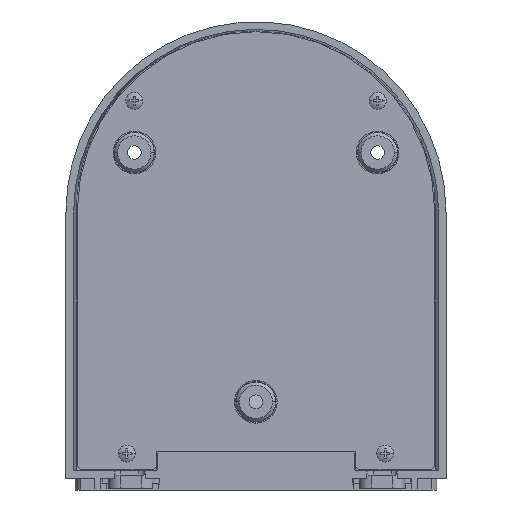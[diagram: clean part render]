
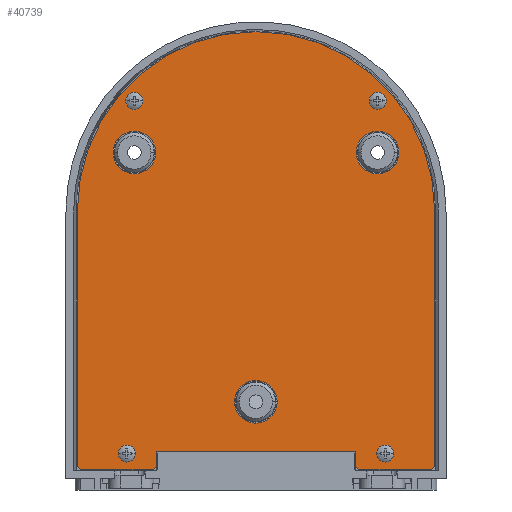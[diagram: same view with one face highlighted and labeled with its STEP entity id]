
A CAD part, front view. The second image highlights one B-rep face of the part: STEP entity #40739.
In plain terms, the highlighted planar face has unit normal (0, -1, 0).
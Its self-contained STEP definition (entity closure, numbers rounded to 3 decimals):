
#12165=CARTESIAN_POINT('',(-0.046,-127.6,-90.));
#12166=DIRECTION('',(0.,1.,0.));
#12167=DIRECTION('',(-1.,0.,0.));
#12168=AXIS2_PLACEMENT_3D('',#12165,#12166,#12167);
#12170=CARTESIAN_POINT('',(-0.046,-127.6,-90.));
#12171=DIRECTION('',(0.,1.,0.));
#12172=DIRECTION('',(1.,0.,0.));
#12173=AXIS2_PLACEMENT_3D('',#12170,#12171,#12172);
#12175=CARTESIAN_POINT('',(40.,-127.6,-8.));
#12176=DIRECTION('',(0.,1.,0.));
#12177=DIRECTION('',(-1.,0.,0.));
#12178=AXIS2_PLACEMENT_3D('',#12175,#12176,#12177);
#12180=CARTESIAN_POINT('',(40.,-127.6,-8.));
#12181=DIRECTION('',(0.,1.,0.));
#12182=DIRECTION('',(1.,0.,0.));
#12183=AXIS2_PLACEMENT_3D('',#12180,#12181,#12182);
#12185=CARTESIAN_POINT('',(-40.,-127.6,-8.));
#12186=DIRECTION('',(0.,1.,0.));
#12187=DIRECTION('',(-1.,0.,0.));
#12188=AXIS2_PLACEMENT_3D('',#12185,#12186,#12187);
#12190=CARTESIAN_POINT('',(-40.,-127.6,-8.));
#12191=DIRECTION('',(0.,1.,0.));
#12192=DIRECTION('',(1.,0.,0.));
#12193=AXIS2_PLACEMENT_3D('',#12190,#12191,#12192);
#12195=DIRECTION('',(0.707,0.,-0.707));
#12196=VECTOR('',#12195,1.414);
#12197=CARTESIAN_POINT('',(-58.75,-127.6,-111.3));
#12198=LINE('',#12197,#12196);
#12199=DIRECTION('',(0.,0.,1.));
#12200=VECTOR('',#12199,84.3);
#12201=CARTESIAN_POINT('',(-58.75,-127.6,-111.3));
#12202=LINE('',#12201,#12200);
#12203=CARTESIAN_POINT('',(0.,-127.6,-27.));
#12204=DIRECTION('',(0.,1.,0.));
#12205=DIRECTION('',(-1.,0.,0.));
#12206=AXIS2_PLACEMENT_3D('',#12203,#12204,#12205);
#12208=DIRECTION('',(0.,0.,-1.));
#12209=VECTOR('',#12208,84.3);
#12210=CARTESIAN_POINT('',(58.75,-127.6,-27.));
#12211=LINE('',#12210,#12209);
#12212=DIRECTION('',(0.707,0.,0.707));
#12213=VECTOR('',#12212,1.414);
#12214=CARTESIAN_POINT('',(57.75,-127.6,-112.3));
#12215=LINE('',#12214,#12213);
#12216=DIRECTION('',(-1.,0.,0.));
#12217=VECTOR('',#12216,23.95);
#12218=CARTESIAN_POINT('',(57.75,-127.6,-112.3));
#12219=LINE('',#12218,#12217);
#12220=DIRECTION('',(0.707,0.,-0.707));
#12221=VECTOR('',#12220,1.414);
#12222=CARTESIAN_POINT('',(32.8,-127.6,-111.3));
#12223=LINE('',#12222,#12221);
#12224=DIRECTION('',(0.,0.,-1.));
#12225=VECTOR('',#12224,5.1);
#12226=CARTESIAN_POINT('',(32.8,-127.6,-106.2));
#12227=LINE('',#12226,#12225);
#12228=DIRECTION('',(1.,0.,0.));
#12229=VECTOR('',#12228,65.6);
#12230=CARTESIAN_POINT('',(-32.8,-127.6,-106.2));
#12231=LINE('',#12230,#12229);
#12232=DIRECTION('',(0.,0.,1.));
#12233=VECTOR('',#12232,5.1);
#12234=CARTESIAN_POINT('',(-32.8,-127.6,-111.3));
#12235=LINE('',#12234,#12233);
#12236=DIRECTION('',(0.707,0.,0.707));
#12237=VECTOR('',#12236,1.414);
#12238=CARTESIAN_POINT('',(-33.8,-127.6,-112.3));
#12239=LINE('',#12238,#12237);
#12240=DIRECTION('',(1.,0.,0.));
#12241=VECTOR('',#12240,23.95);
#12242=CARTESIAN_POINT('',(-57.75,-127.6,-112.3));
#12243=LINE('',#12242,#12241);
#12244=CARTESIAN_POINT('',(42.5,-127.6,-107.));
#12245=DIRECTION('',(0.,1.,0.));
#12246=DIRECTION('',(1.,0.,0.));
#12247=AXIS2_PLACEMENT_3D('',#12244,#12245,#12246);
#12249=CARTESIAN_POINT('',(42.5,-127.6,-107.));
#12250=DIRECTION('',(0.,1.,0.));
#12251=DIRECTION('',(-1.,0.,0.));
#12252=AXIS2_PLACEMENT_3D('',#12249,#12250,#12251);
#12254=CARTESIAN_POINT('',(-42.5,-127.6,-107.));
#12255=DIRECTION('',(0.,1.,0.));
#12256=DIRECTION('',(1.,0.,0.));
#12257=AXIS2_PLACEMENT_3D('',#12254,#12255,#12256);
#12259=CARTESIAN_POINT('',(-42.5,-127.6,-107.));
#12260=DIRECTION('',(0.,1.,0.));
#12261=DIRECTION('',(-1.,0.,0.));
#12262=AXIS2_PLACEMENT_3D('',#12259,#12260,#12261);
#12264=CARTESIAN_POINT('',(40.,-127.6,9.));
#12265=DIRECTION('',(0.,1.,0.));
#12266=DIRECTION('',(1.,0.,0.));
#12267=AXIS2_PLACEMENT_3D('',#12264,#12265,#12266);
#12269=CARTESIAN_POINT('',(40.,-127.6,9.));
#12270=DIRECTION('',(0.,1.,0.));
#12271=DIRECTION('',(-1.,0.,0.));
#12272=AXIS2_PLACEMENT_3D('',#12269,#12270,#12271);
#12274=CARTESIAN_POINT('',(-40.,-127.6,9.));
#12275=DIRECTION('',(0.,1.,0.));
#12276=DIRECTION('',(1.,0.,0.));
#12277=AXIS2_PLACEMENT_3D('',#12274,#12275,#12276);
#12279=CARTESIAN_POINT('',(-40.,-127.6,9.));
#12280=DIRECTION('',(0.,1.,0.));
#12281=DIRECTION('',(-1.,0.,0.));
#12282=AXIS2_PLACEMENT_3D('',#12279,#12280,#12281);
#24055=CARTESIAN_POINT('',(-58.75,-127.6,-27.));
#24056=CARTESIAN_POINT('',(58.75,-127.6,-27.));
#24057=VERTEX_POINT('',#24055);
#24058=VERTEX_POINT('',#24056);
#24059=CARTESIAN_POINT('',(-32.8,-127.6,-106.2));
#24060=CARTESIAN_POINT('',(32.8,-127.6,-106.2));
#24061=VERTEX_POINT('',#24059);
#24062=VERTEX_POINT('',#24060);
#24063=CARTESIAN_POINT('',(-7.046,-127.6,-90.));
#24064=CARTESIAN_POINT('',(6.954,-127.6,-90.));
#24065=VERTEX_POINT('',#24063);
#24066=VERTEX_POINT('',#24064);
#24067=CARTESIAN_POINT('',(33.,-127.6,-8.));
#24068=CARTESIAN_POINT('',(47.,-127.6,-8.));
#24069=VERTEX_POINT('',#24067);
#24070=VERTEX_POINT('',#24068);
#24071=CARTESIAN_POINT('',(-47.,-127.6,-8.));
#24072=CARTESIAN_POINT('',(-33.,-127.6,-8.));
#24073=VERTEX_POINT('',#24071);
#24074=VERTEX_POINT('',#24072);
#24075=CARTESIAN_POINT('',(-58.75,-127.6,-111.3));
#24076=CARTESIAN_POINT('',(-57.75,-127.6,-112.3));
#24077=VERTEX_POINT('',#24075);
#24078=VERTEX_POINT('',#24076);
#24079=CARTESIAN_POINT('',(-33.8,-127.6,-112.3));
#24080=CARTESIAN_POINT('',(-32.8,-127.6,-111.3));
#24081=VERTEX_POINT('',#24079);
#24082=VERTEX_POINT('',#24080);
#24083=CARTESIAN_POINT('',(57.75,-127.6,-112.3));
#24084=CARTESIAN_POINT('',(58.75,-127.6,-111.3));
#24085=VERTEX_POINT('',#24083);
#24086=VERTEX_POINT('',#24084);
#24087=CARTESIAN_POINT('',(32.8,-127.6,-111.3));
#24088=CARTESIAN_POINT('',(33.8,-127.6,-112.3));
#24089=VERTEX_POINT('',#24087);
#24090=VERTEX_POINT('',#24088);
#24477=CARTESIAN_POINT('',(45.3,-127.6,-107.));
#24478=CARTESIAN_POINT('',(39.7,-127.6,-107.));
#24479=VERTEX_POINT('',#24477);
#24480=VERTEX_POINT('',#24478);
#24489=CARTESIAN_POINT('',(-39.7,-127.6,-107.));
#24490=CARTESIAN_POINT('',(-45.3,-127.6,-107.));
#24491=VERTEX_POINT('',#24489);
#24492=VERTEX_POINT('',#24490);
#24493=CARTESIAN_POINT('',(42.8,-127.6,9.));
#24494=CARTESIAN_POINT('',(37.2,-127.6,9.));
#24495=VERTEX_POINT('',#24493);
#24496=VERTEX_POINT('',#24494);
#24497=CARTESIAN_POINT('',(-37.2,-127.6,9.));
#24498=CARTESIAN_POINT('',(-42.8,-127.6,9.));
#24499=VERTEX_POINT('',#24497);
#24500=VERTEX_POINT('',#24498);
#40678=CARTESIAN_POINT('',(0.,-127.6,0.));
#40679=DIRECTION('',(0.,1.,0.));
#40680=DIRECTION('',(-1.,0.,0.));
#40681=AXIS2_PLACEMENT_3D('',#40678,#40679,#40680);
#40682=PLANE('',#40681);
#40683=ORIENTED_EDGE('',*,*,#40659,.F.);
#40684=ORIENTED_EDGE('',*,*,#40672,.T.);
#40685=ORIENTED_EDGE('',*,*,#40518,.T.);
#40686=ORIENTED_EDGE('',*,*,#40533,.T.);
#40687=ORIENTED_EDGE('',*,*,#40547,.F.);
#40688=ORIENTED_EDGE('',*,*,#40561,.T.);
#40689=ORIENTED_EDGE('',*,*,#40575,.F.);
#40690=ORIENTED_EDGE('',*,*,#40589,.F.);
#40691=ORIENTED_EDGE('',*,*,#40603,.F.);
#40692=ORIENTED_EDGE('',*,*,#40617,.F.);
#40693=ORIENTED_EDGE('',*,*,#40631,.F.);
#40694=ORIENTED_EDGE('',*,*,#40645,.F.);
#40695=EDGE_LOOP('',(#40683,#40684,#40685,#40686,#40687,#40688,#40689,#40690,
#40691,#40692,#40693,#40694));
#40696=FACE_OUTER_BOUND('',#40695,.F.);
#40698=ORIENTED_EDGE('',*,*,#40697,.F.);
#40700=ORIENTED_EDGE('',*,*,#40699,.F.);
#40701=EDGE_LOOP('',(#40698,#40700));
#40702=FACE_BOUND('',#40701,.F.);
#40704=ORIENTED_EDGE('',*,*,#40703,.F.);
#40706=ORIENTED_EDGE('',*,*,#40705,.F.);
#40707=EDGE_LOOP('',(#40704,#40706));
#40708=FACE_BOUND('',#40707,.F.);
#40710=ORIENTED_EDGE('',*,*,#40709,.F.);
#40712=ORIENTED_EDGE('',*,*,#40711,.F.);
#40713=EDGE_LOOP('',(#40710,#40712));
#40714=FACE_BOUND('',#40713,.F.);
#40716=ORIENTED_EDGE('',*,*,#40715,.F.);
#40718=ORIENTED_EDGE('',*,*,#40717,.F.);
#40719=EDGE_LOOP('',(#40716,#40718));
#40720=FACE_BOUND('',#40719,.F.);
#40722=ORIENTED_EDGE('',*,*,#40721,.F.);
#40724=ORIENTED_EDGE('',*,*,#40723,.F.);
#40725=EDGE_LOOP('',(#40722,#40724));
#40726=FACE_BOUND('',#40725,.F.);
#40728=ORIENTED_EDGE('',*,*,#40727,.F.);
#40730=ORIENTED_EDGE('',*,*,#40729,.F.);
#40731=EDGE_LOOP('',(#40728,#40730));
#40732=FACE_BOUND('',#40731,.F.);
#40734=ORIENTED_EDGE('',*,*,#40733,.F.);
#40736=ORIENTED_EDGE('',*,*,#40735,.F.);
#40737=EDGE_LOOP('',(#40734,#40736));
#40738=FACE_BOUND('',#40737,.F.);
#40739=ADVANCED_FACE('',(#40696,#40702,#40708,#40714,#40720,#40726,#40732,
#40738),#40682,.F.);
#12169=CIRCLE('',#12168,7.);
#12174=CIRCLE('',#12173,7.);
#12179=CIRCLE('',#12178,7.);
#12184=CIRCLE('',#12183,7.);
#12189=CIRCLE('',#12188,7.);
#12194=CIRCLE('',#12193,7.);
#12207=CIRCLE('',#12206,58.75);
#12248=CIRCLE('',#12247,2.8);
#12253=CIRCLE('',#12252,2.8);
#12258=CIRCLE('',#12257,2.8);
#12263=CIRCLE('',#12262,2.8);
#12268=CIRCLE('',#12267,2.8);
#12273=CIRCLE('',#12272,2.8);
#12278=CIRCLE('',#12277,2.8);
#12283=CIRCLE('',#12282,2.8);
#40518=EDGE_CURVE('',#24057,#24058,#12207,.T.);
#40533=EDGE_CURVE('',#24058,#24086,#12211,.T.);
#40547=EDGE_CURVE('',#24085,#24086,#12215,.T.);
#40561=EDGE_CURVE('',#24085,#24090,#12219,.T.);
#40575=EDGE_CURVE('',#24089,#24090,#12223,.T.);
#40589=EDGE_CURVE('',#24062,#24089,#12227,.T.);
#40603=EDGE_CURVE('',#24061,#24062,#12231,.T.);
#40617=EDGE_CURVE('',#24082,#24061,#12235,.T.);
#40631=EDGE_CURVE('',#24081,#24082,#12239,.T.);
#40645=EDGE_CURVE('',#24078,#24081,#12243,.T.);
#40659=EDGE_CURVE('',#24077,#24078,#12198,.T.);
#40672=EDGE_CURVE('',#24077,#24057,#12202,.T.);
#40697=EDGE_CURVE('',#24069,#24070,#12179,.T.);
#40699=EDGE_CURVE('',#24070,#24069,#12184,.T.);
#40703=EDGE_CURVE('',#24073,#24074,#12189,.T.);
#40705=EDGE_CURVE('',#24074,#24073,#12194,.T.);
#40709=EDGE_CURVE('',#24065,#24066,#12169,.T.);
#40711=EDGE_CURVE('',#24066,#24065,#12174,.T.);
#40715=EDGE_CURVE('',#24479,#24480,#12248,.T.);
#40717=EDGE_CURVE('',#24480,#24479,#12253,.T.);
#40721=EDGE_CURVE('',#24491,#24492,#12258,.T.);
#40723=EDGE_CURVE('',#24492,#24491,#12263,.T.);
#40727=EDGE_CURVE('',#24495,#24496,#12268,.T.);
#40729=EDGE_CURVE('',#24496,#24495,#12273,.T.);
#40733=EDGE_CURVE('',#24499,#24500,#12278,.T.);
#40735=EDGE_CURVE('',#24500,#24499,#12283,.T.);
